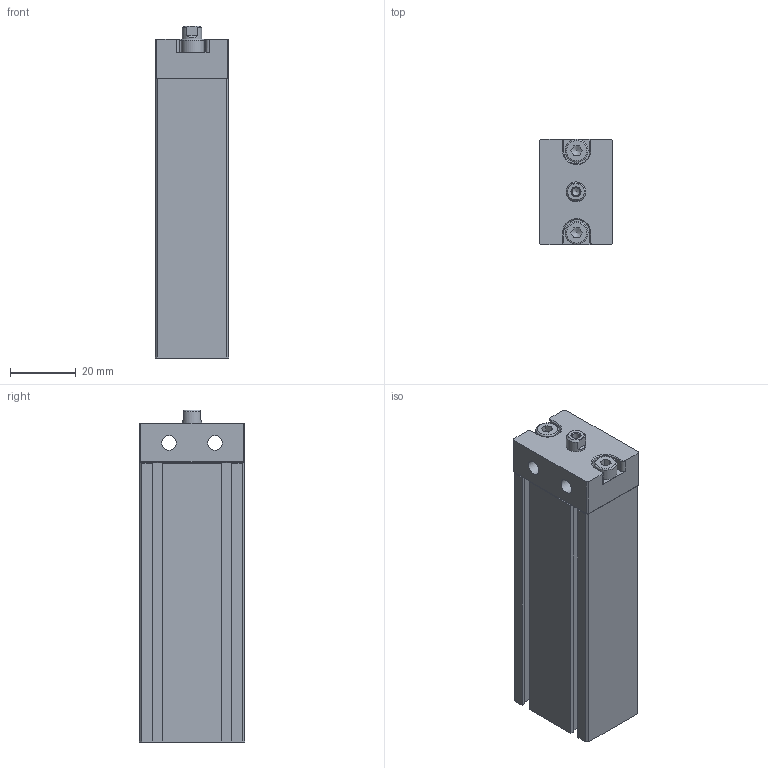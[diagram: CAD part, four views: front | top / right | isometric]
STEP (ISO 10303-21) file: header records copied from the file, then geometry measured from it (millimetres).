
FILE_DESCRIPTION((''),'2;1');
FILE_NAME('I:\3D電子目錄\氣缸\ND\ND\ND16\ND16x60.stp','2007-07-23T19:05:23',('Administrator'),(''),'Autodesk Inventor 11','Autodesk Inventor 11','');
FILE_SCHEMA(('AUTOMOTIVE_DESIGN { 1 0 10303 214 1 1 1 1 }'));
Length unit declared in the file: millimetre
Products named in the file (4): ND16; R 形環 18; ISO 4762 M4 x 10
Assembly tree (4 placements, depth 2):
  ND16
    ND16
    R 形環 18
    ISO 4762 M4 x 10  x2
Bounding box: 22.4 x 32.1 x 101 mm (x, y, z)
Volume: 60051.4 mm3; surface area: 18992.6 mm2
Topology: 5 solids, 5 shells, 170 faces, 408 edges, 261 vertices
Faces by surface type: plane 109, cylinder 26, cone 16, bspline 16, torus 3
Full cylindrical faces by diameter (mm): 1.5 x4, 4 x2, 4.5 x2, 6 x1, 7 x2, 10 x1, 18 x1, 19 x1
Entity records: 4537 total; most frequent: CARTESIAN_POINT 968, DIRECTION 708, ORIENTED_EDGE 668, EDGE_CURVE 334, AXIS2_PLACEMENT_3D 236, VECTOR 236, LINE 236, VERTEX_POINT 234
